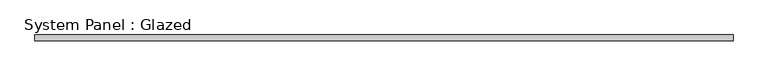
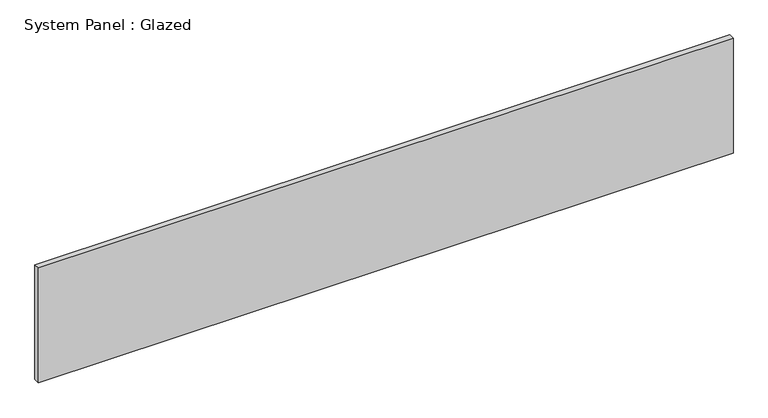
"""IFC4 building model written with IfcOpenShell, lengths in millimetres: plate geometry, System Panel : Glazed."""

from ifc_helpers import new_model, si_unit, origin, origin_with_axes, place, context, project, spatial, polyline, outline, extrude, source, transform, mapped, element, save


def system_panel_glazed_37bbd643(model_context):
    return source(origin(), model_context, "Body", "SweptSolid", [
        extrude(outline(polyline([(1524.0, 19.05), (-1524.0, 19.05), (-1524.0, 44.45), (1524.0, 44.45), (1524.0, 19.05)])), origin_with_axes(), (0.0, 0.0, 1.0), 533.0898546),
    ])


if __name__ == "__main__":
    model = new_model("IFC4")
    model_context = context("Model", 3, world=origin())
    ifc_project = project(units=[si_unit("LENGTHUNIT", "METRE", prefix="MILLI")], contexts=[model_context])
    site = spatial("IfcSite", under=ifc_project)
    building = spatial("IfcBuilding", under=site)
    placement = place(None, origin())
    system_panel_glazed_shape = system_panel_glazed_37bbd643(model_context)
    element("IfcPlate", 1, ObjectType="System Panel : Glazed", at=placement, inside=building, context=model_context, shape_type="MappedRepresentation", body=[
        mapped(system_panel_glazed_shape, transform((0.0, 0.0, 0.0), x_axis=(1.0, 0.0, 0.0), y_axis=(0.0, 1.0, 0.0), z_axis=(0.0, 0.0, 1.0))),
    ])
    save(model, "model.ifc")
